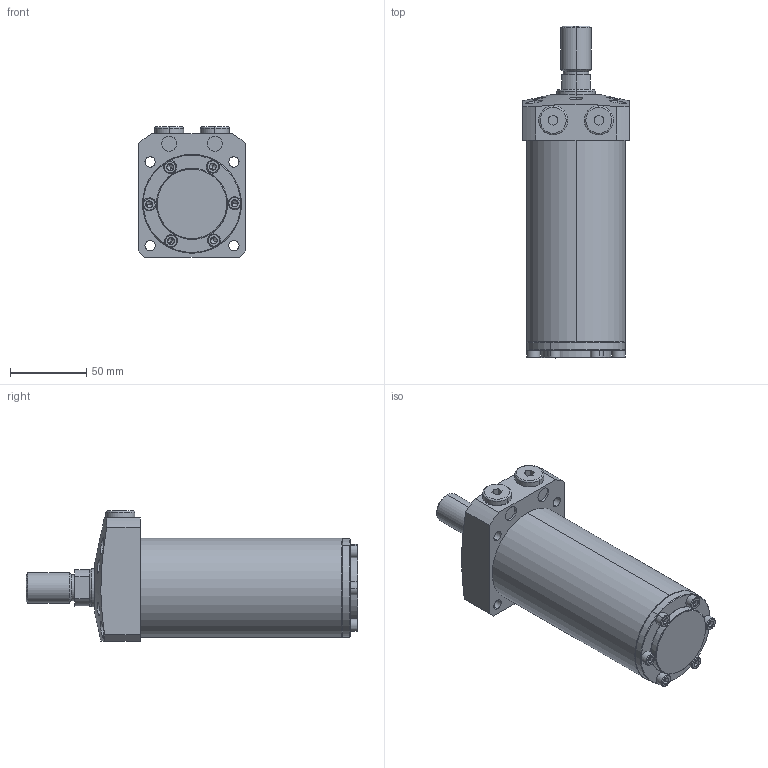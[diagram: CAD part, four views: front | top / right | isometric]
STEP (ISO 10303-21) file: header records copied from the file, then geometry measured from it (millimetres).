
FILE_DESCRIPTION (( 'STEP AP203' ), '1' );
FILE_NAME ('680650-CT-110.step', '2016-11-02T03:26:06', ( 'wxp' ), ( '' ), 'SwSTEP 2.0', 'SolidWorks 2011', '' );
FILE_SCHEMA (( 'CONFIG_CONTROL_DESIGN' ));
Length unit declared in the file: millimetre
Products named in the file (7): 葩璃 680650-CA-110-11^680650-CT-110; 葩璃 68065-CA-51-6^680650-CT-110; 葩璃 68065-CA-51-5^680650-CT-110; 葩璃 68065-CA-51-4^680650-CT-110; 葩璃 68065-CA-51-3^680650-CT-110; 葩璃 68065-CA-110-1^680650-CT-110; 680650-CT-110
Assembly tree (17 placements, depth 2):
  680650-CT-110
    葩璃 68065-CA-51-5^680650-CT-110  x6
    葩璃 68065-CA-51-4^680650-CT-110  x6
    葩璃 68065-CA-51-3^680650-CT-110
    葩璃 68065-CA-110-1^680650-CT-110
    葩璃 680650-CA-110-11^680650-CT-110
    葩璃 68065-CA-51-6^680650-CT-110  x2
Bounding box: 70 x 218 x 85.5 mm (x, y, z)
Volume: 647419.7 mm3; surface area: 87054.6 mm2
Topology: 17 solids, 17 shells, 548 faces, 1034 edges, 541 vertices
Faces by surface type: plane 235, cone 168, cylinder 129, torus 16
Entity records: 7489 total; most frequent: CARTESIAN_POINT 1816, DIRECTION 1071, ORIENTED_EDGE 872, AXIS2_PLACEMENT_3D 447, EDGE_CURVE 436, VERTEX_POINT 259, EDGE_LOOP 255, CIRCLE 215
